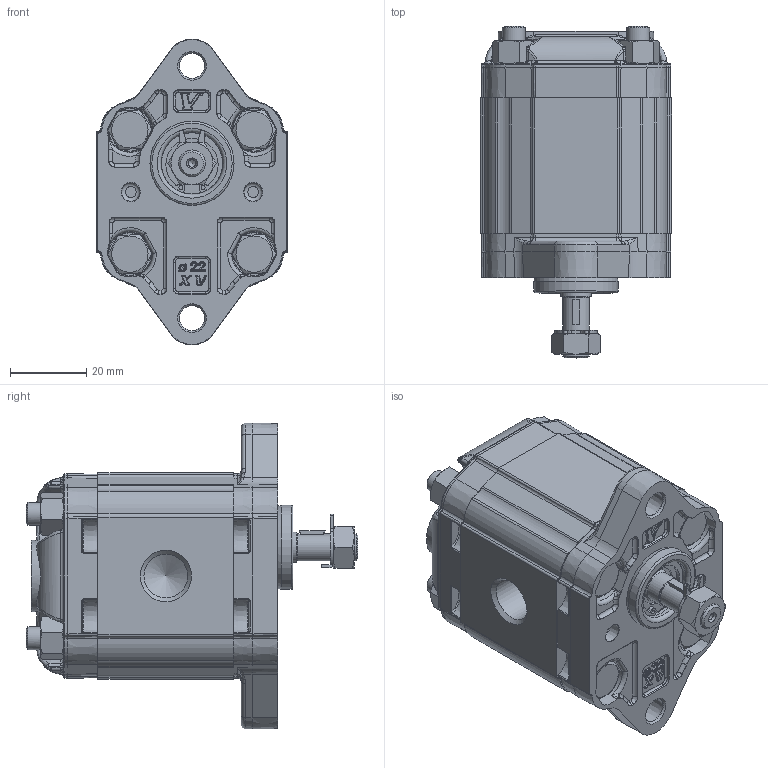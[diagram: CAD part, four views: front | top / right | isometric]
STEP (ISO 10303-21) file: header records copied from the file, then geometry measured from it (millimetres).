
FILE_DESCRIPTION(/* description */ ('Unknown'),/* implementation_level */ '2;1');
FILE_NAME(/* name */ 'X0M0701ABBE',/* time_stamp */ '2026-05-25T18:05:56+02:00',/* author */ ('Unknown'),/* organization */ ('Unknown'),/* preprocessor_version */ 'ST-DEVELOPER v16.7',/* originating_system */ 'Solid Edge',/* authorisation */ 'Unknown');
FILE_SCHEMA (('AUTOMOTIVE_DESIGN {1 0 10303 214 3 1 1}'));
Products named in the file (5): X0M0701ABBE; X0M01; 0A; X0BBH35,5; XM001-E
Assembly tree (4 placements, depth 2):
  X0M0701ABBE
    X0M01
    0A
    X0BBH35,5
    XM001-E
Bounding box: 50 x 86.8 x 79.95 mm (x, y, z)
Volume: 142554.6 mm3; surface area: 40084.8 mm2
Topology: 5 solids, 5 shells, 1948 faces, 4786 edges, 2843 vertices
Faces by surface type: cylinder 562, plane 489, bspline 392, cone 285, torus 169, sphere 51
Full cylindrical faces by diameter (mm): 1.053 x2, 2 x1, 6 x8, 6.01 x4, 6.5 x4, 6.518 x4, 6.545 x2, 7 x2, 7.25 x1, 7.5 x2, 7.92 x1, 8 x2, 9.318 x1, 10 x4, 10.445 x1, 11 x1, 11.445 x3, 13 x1, 14 x1, 16 x1, 16.2 x1, 16.8 x1, 22 x1
Entity records: 127256 total; most frequent: CARTESIAN_POINT 71656, ORIENTED_EDGE 9054, DIRECTION 8050, EDGE_CURVE 4527, AXIS2_PLACEMENT_3D 3344, VERTEX_POINT 2775, FACE_BOUND 2202, EDGE_LOOP 2199
